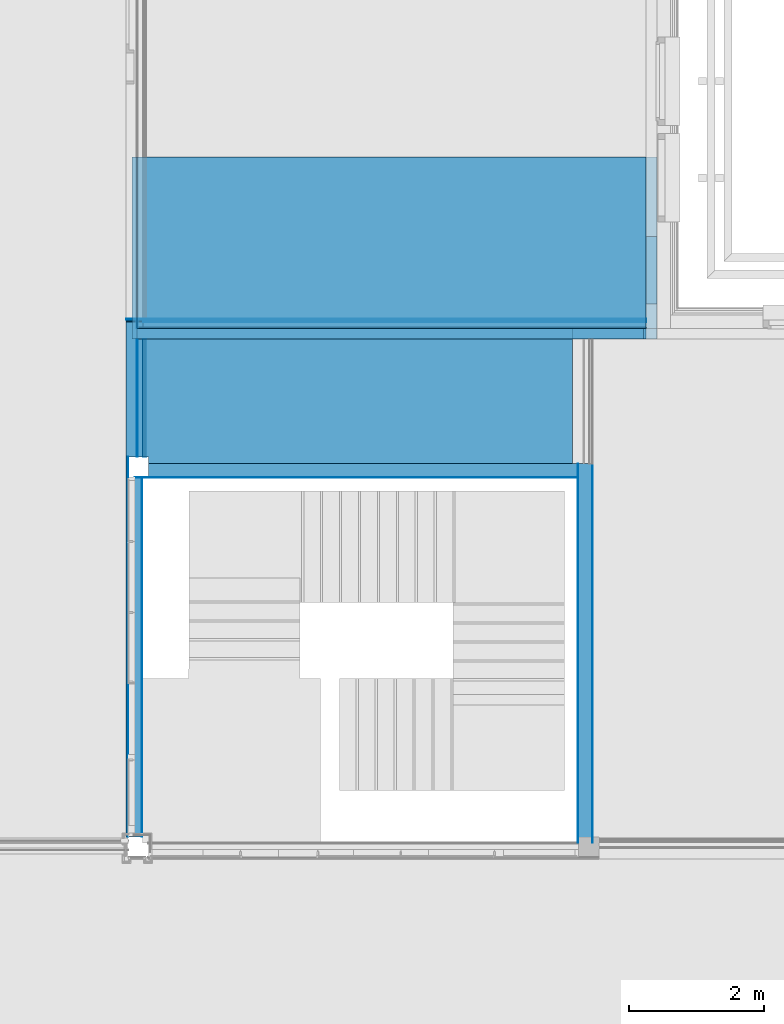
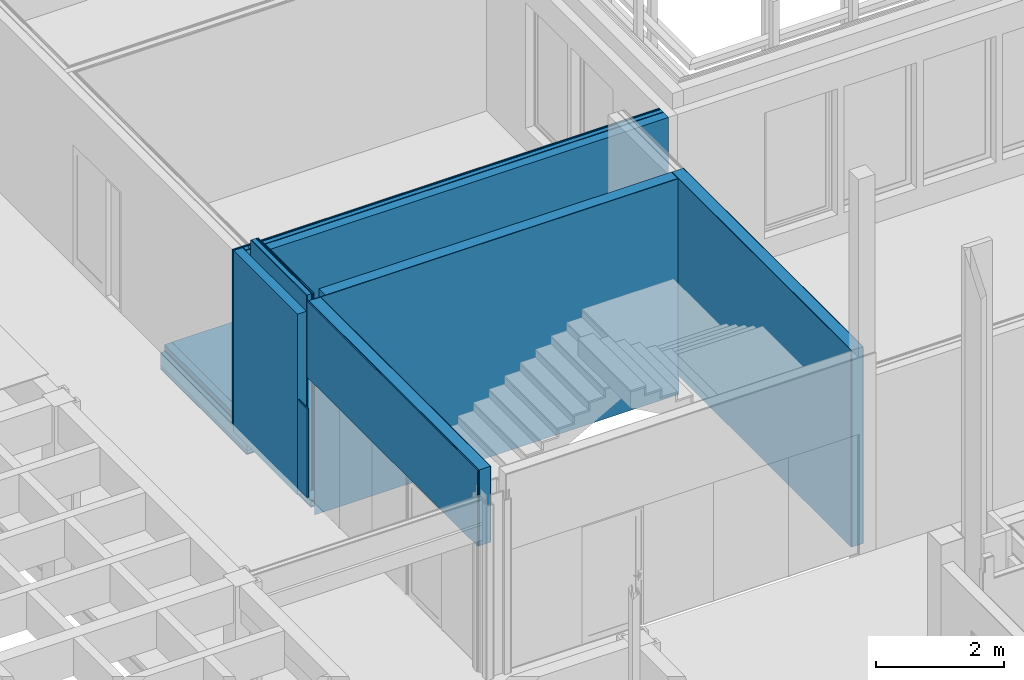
# One storey, part 96 of 139: 37 building element parts, 1 opening, 8 elements without a shape of their own.
"""IFC2X3 building model written with IfcOpenShell, lengths in millimetres."""

from ifc_helpers import new_model, entity, si_unit, converted_unit, derived_unit, money_unit, direction, frame, origin_with_axes, place, context, subcontext, project, spatial, faceted_brep, material, type_object, element, aggregate, save


model = new_model("IFC2X3")

# Units and contexts
model_context = context("Model", 3, precision=0.01, world=origin_with_axes(), true_north=direction((0.0, 1.0)))
body_context = subcontext(model_context, "Body", "Model", "MODEL_VIEW")
ifc_project = project(units=[si_unit("LENGTHUNIT", "METRE", prefix="MILLI"), si_unit("AREAUNIT", "SQUARE_METRE"), si_unit("VOLUMEUNIT", "CUBIC_METRE"), converted_unit("PLANEANGLEUNIT", "DEGREE", entity("IfcPlaneAngleMeasure", 0.0174532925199), si_unit("PLANEANGLEUNIT", "RADIAN"), dimensions=[0, 0, 0, 0, 0, 0, 0]), money_unit("EUR"), converted_unit("TIMEUNIT", "Year", entity("IfcTimeMeasure", 31556926.0), si_unit("TIMEUNIT", "SECOND"), dimensions=[0, 0, 1, 0, 0, 0, 0]), si_unit("MASSUNIT", "GRAM", prefix="KILO"), si_unit("THERMODYNAMICTEMPERATUREUNIT", "DEGREE_CELSIUS"), si_unit("LUMINOUSINTENSITYUNIT", "LUMEN"), si_unit("ENERGYUNIT", "JOULE", prefix="MEGA"), derived_unit("THERMALCONDUCTANCEUNIT", [(si_unit("POWERUNIT", "WATT"), 1), (si_unit("LENGTHUNIT", "METRE"), -1), (si_unit("THERMODYNAMICTEMPERATUREUNIT", "KELVIN"), -1)]), derived_unit("SPECIFICHEATCAPACITYUNIT", [(si_unit("ENERGYUNIT", "JOULE"), 1), (si_unit("MASSUNIT", "GRAM", prefix="KILO"), -1), (si_unit("THERMODYNAMICTEMPERATUREUNIT", "KELVIN"), -1)]), derived_unit("MASSDENSITYUNIT", [(si_unit("MASSUNIT", "GRAM", prefix="KILO"), 1), (si_unit("VOLUMEUNIT", "CUBIC_METRE"), -1)])], contexts=[model_context])

# Site, building, storey
site_placement = place(None, origin_with_axes())
site = spatial("IfcSite", under=ifc_project, at=site_placement, Name="Kolde pst 67a", CompositionType="ELEMENT")
building_placement = place(site_placement, origin_with_axes())
building = spatial("IfcBuilding", under=site, at=building_placement, Name="Riigigümnaasium", CompositionType="ELEMENT")
storey_placement = place(building_placement, frame((0.0, 0.0, 4600.0), z_axis=(0.0, 0.0, 1.0), x_axis=(1.0, 0.0, 0.0)))
storey = spatial("IfcBuildingStorey", under=building, at=storey_placement, Name="2. korrus", CompositionType="ELEMENT", Elevation=4600.0)

# Wall, building element parts
wall_type_1 = type_object("IfcWallType", Name="SS-CLT-16/1_vill75+krohv 52 dB 300", PredefinedType="NOTDEFINED")
wall_1_placement = place(storey_placement, frame((60279.9941222, 36279.9996998, -200.0), z_axis=(0.0, 0.0, 1.0), x_axis=(-1.0, 0.0, 0.0)))
wall_1 = element("IfcWall", 1, at=wall_1_placement, inside=storey, type_object=wall_type_1, Name="Sisesein")
ifc_material_1 = material(Name="_KANDETARIND - CLT ristkihtliimpuit vastavalt EK osale, CLT paigaldusvuugid teibitakse ROTHOBLAAS teibiga")
building_element_part_1_placement = place(wall_1_placement, origin_with_axes())
building_element_part_1 = element("IfcBuildingElementPart", 2, at=building_element_part_1_placement, material=ifc_material_1, Name="_KANDETARIND - CLT ristkihtliimpuit vastavalt EK osale, CLT paigaldusvuugid teibitakse ROTHOBLAAS teibiga", context=body_context, shape_type="Brep", body=[
    faceted_brep([(0.0, -160.0, 3520.0), (0.0, -160.0, 70.0), (1089.98089475, -160.0, 70.0), (7530.0, -160.0, 70.0), (7530.0, -160.0, 3520.0), (0.0, 0.0, 3520.0), (0.0, 0.0, 70.0), (1089.98089475, 0.0, 70.0), (7530.0, 0.0, 70.0), (7529.99998052, 0.0, 3520.0), (799.972930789, 0.0, 3520.0), (2135.04524547, 0.0, 3520.0)], [[[0, 1, 2, 3, 4]], [[0, 5, 6, 1]], [[3, 2, 1, 6, 7, 8]], [[9, 4, 3, 8]], [[10, 5, 0, 4, 9, 11]], [[5, 10, 11, 9, 8, 7, 6]]]),
])
ifc_material_2 = material(Name="_ÕHKVAHE")
building_element_part_2_placement = place(wall_1_placement, origin_with_axes())
building_element_part_2 = element("IfcBuildingElementPart", 3, at=building_element_part_2_placement, material=ifc_material_2, Name="_ÕHKVAHE", context=body_context, shape_type="Brep", body=[
    faceted_brep([(0.0, -175.0, 3520.0), (0.0, -175.0, 197.0), (7515.0, -175.0, 197.0), (7515.0, -175.0, 3520.0), (0.0, -160.0, 3520.0), (0.0, -160.0, 197.0), (7515.0, -160.0, 197.0), (7515.0, -160.0, 3520.0)], [[[0, 1, 2, 3]], [[0, 4, 5, 1]], [[2, 1, 5, 6]], [[7, 3, 2, 6]], [[4, 0, 3, 7]], [[4, 7, 6, 5]]]),
])
ifc_material_3 = material(Name="_KARKASS - metallkarkass CW 75/50/06 ja UW 75/40/06, samm 600, vahel mineraalvill, helineeldetegur αw = 1.0,  ISOVER ACOUSTIC 75mm või samaväärne")
building_element_part_3_placement = place(wall_1_placement, origin_with_axes())
building_element_part_3 = element("IfcBuildingElementPart", 4, at=building_element_part_3_placement, material=ifc_material_3, Name="_KARKASS - metallkarkass CW 75/50/06 ja UW 75/40/06, samm 600, vahel mineraalvill, helineeldetegur αw = 1.0,  ISOVER ACOUSTIC 75mm või samaväärne", context=body_context, shape_type="Brep", body=[
    faceted_brep([(0.0, -250.0, 3520.0), (0.0, -250.0, 197.0), (7440.0, -250.0, 197.0), (7440.0, -250.0, 3520.0), (0.0, -175.0, 3520.0), (0.0, -175.0, 197.0), (7440.0, -175.0, 197.0), (7440.0, -175.0, 3520.0)], [[[0, 1, 2, 3]], [[0, 4, 5, 1]], [[2, 1, 5, 6]], [[7, 3, 2, 6]], [[4, 0, 3, 7]], [[4, 7, 6, 5]]]),
])
ifc_material_4 = material(Name="_PLAATMATERJAL - OSB3 plaat")
building_element_part_4_placement = place(wall_1_placement, origin_with_axes())
building_element_part_4 = element("IfcBuildingElementPart", 5, at=building_element_part_4_placement, material=ifc_material_4, Name="_PLAATMATERJAL - OSB3 plaat", context=body_context, shape_type="Brep", body=[
    faceted_brep([(0.0, -260.0, 3520.0), (0.0, -260.0, 197.0), (7430.0, -260.0, 197.0), (7430.0, -260.0, 3520.0), (0.0, -250.0, 3520.0), (0.0, -250.0, 197.0), (7430.0, -250.0, 197.0), (7430.0, -250.0, 3520.0)], [[[0, 1, 2, 3]], [[0, 4, 5, 1]], [[2, 1, 5, 6]], [[7, 3, 2, 6]], [[4, 0, 3, 7]], [[4, 7, 6, 5]]]),
])
ifc_material_5 = material(Name="_PLAATMATERJAL - tuletõkkekipsplaat, Knauf Red GKF või samaväärne")
building_element_part_5_placement = place(wall_1_placement, origin_with_axes())
building_element_part_5 = element("IfcBuildingElementPart", 6, at=building_element_part_5_placement, material=ifc_material_5, Name="_PLAATMATERJAL - tuletõkkekipsplaat, Knauf Red GKF või samaväärne", context=body_context, shape_type="Brep", body=[
    faceted_brep([(0.0, -275.0, 3520.0), (0.0, -275.0, 197.0), (7690.0, -275.0, 197.0), (7690.0, -275.0, 3520.0), (0.0, -260.0, 3520.0), (0.0, -260.0, 197.0), (7690.0, -260.0, 197.0), (7690.0, -260.0, 3520.0)], [[[0, 1, 2, 3]], [[0, 4, 5, 1]], [[1, 5, 6, 2]], [[7, 3, 2, 6]], [[4, 0, 3, 7]], [[4, 7, 6, 5]]]),
])
building_element_part_6_placement = place(wall_1_placement, origin_with_axes())
building_element_part_6 = element("IfcBuildingElementPart", 7, at=building_element_part_6_placement, material=ifc_material_5, Name="_PLAATMATERJAL - tuletõkkekipsplaat, Knauf Red GKF või samaväärne", context=body_context, shape_type="Brep", body=[
    faceted_brep([(0.0, -290.0, 3520.0), (0.0, -290.0, 197.0), (7690.0, -290.0, 197.0), (7690.0, -290.0, 3520.0), (0.0, -275.0, 3520.0), (0.0, -275.0, 197.0), (7690.0, -275.0, 197.0), (7690.0, -275.0, 3520.0)], [[[0, 1, 2, 3]], [[0, 4, 5, 1]], [[1, 5, 6, 2]], [[7, 3, 2, 6]], [[4, 0, 3, 7]], [[4, 7, 6, 5]]]),
])
ifc_material_6 = material(Name="_VIIMISTLUSKIHT - viimistlus vastavalt SA osale")
building_element_part_7_placement = place(wall_1_placement, origin_with_axes())
building_element_part_7 = element("IfcBuildingElementPart", 8, at=building_element_part_7_placement, material=ifc_material_6, Name="_VIIMISTLUSKIHT - viimistlus vastavalt SA osale", context=body_context, shape_type="Brep", body=[
    faceted_brep([(0.0, -300.0, 3520.0), (0.0, -300.0, 200.0), (7690.0, -300.0, 200.0), (7690.0, -300.0, 3520.0), (0.0, -290.0, 3520.0), (0.0, -290.0, 200.0), (7690.0, -290.0, 200.0), (7690.0, -290.0, 3520.0)], [[[0, 1, 2, 3]], [[0, 4, 5, 1]], [[1, 5, 6, 2]], [[7, 3, 2, 6]], [[4, 0, 3, 7]], [[4, 7, 6, 5]]]),
])
aggregate(wall_1, [building_element_part_1, building_element_part_2, building_element_part_3, building_element_part_4, building_element_part_5, building_element_part_6, building_element_part_7])

wall_2_placement = place(storey_placement, frame((52589.9941222, 36539.9996998, -130.0), z_axis=(0.0, 0.0, 1.0), x_axis=(0.0, -1.0, 0.0)))
wall_2 = element("IfcWall", 9, at=wall_2_placement, inside=storey, type_object=wall_type_1, Name="Sisesein")
building_element_part_8_placement = place(wall_2_placement, origin_with_axes())
building_element_part_8 = element("IfcBuildingElementPart", 10, at=building_element_part_8_placement, material=ifc_material_6, Name="_VIIMISTLUSKIHT - viimistlus vastavalt SA osale", context=body_context, shape_type="Brep", body=[
    faceted_brep([(260.0, 300.0, 3470.0), (260.0, 300.0, 3750.0), (1999.99972686, 300.0, 3750.0), (1999.99972686, 300.0, 0.0), (260.0, 300.0, 0.0), (260.0, 290.0, 0.0), (260.0, 290.0, 3470.0), (260.0, 290.0, 3750.0), (1999.99972686, 290.0, 3750.0), (1999.99972686, 290.0, 0.0)], [[[0, 1, 2, 3, 4]], [[1, 0, 4, 5, 6, 7]], [[1, 7, 8, 2]], [[8, 9, 3, 2]], [[9, 5, 4, 3]], [[6, 5, 9, 8, 7]]]),
])
building_element_part_9_placement = place(wall_2_placement, origin_with_axes())
building_element_part_9 = element("IfcBuildingElementPart", 11, at=building_element_part_9_placement, material=ifc_material_5, Name="_PLAATMATERJAL - tuletõkkekipsplaat, Knauf Red GKF või samaväärne", context=body_context, shape_type="Brep", body=[
    faceted_brep([(260.0, 290.0, 3470.0), (260.0, 290.0, 3750.0), (1999.99972686, 290.0, 3750.0), (1999.99972686, 290.0, 0.0), (260.0, 290.0, 0.0), (260.0, 275.0, 0.0), (260.0, 275.0, 3470.0), (260.0, 275.0, 3750.0), (1999.99972686, 275.0, 3750.0), (1999.99972686, 275.0, 0.0)], [[[0, 1, 2, 3, 4]], [[1, 0, 4, 5, 6, 7]], [[1, 7, 8, 2]], [[8, 9, 3, 2]], [[9, 5, 4, 3]], [[6, 5, 9, 8, 7]]]),
])
building_element_part_10_placement = place(wall_2_placement, origin_with_axes())
building_element_part_10 = element("IfcBuildingElementPart", 12, at=building_element_part_10_placement, material=ifc_material_5, Name="_PLAATMATERJAL - tuletõkkekipsplaat, Knauf Red GKF või samaväärne", context=body_context, shape_type="Brep", body=[
    faceted_brep([(260.0, 275.0, 3470.0), (260.0, 275.0, 3750.0), (1999.99972686, 275.0, 3750.0), (1999.99972686, 275.0, 0.0), (260.0, 275.0, 0.0), (260.0, 260.0, 0.0), (260.0, 260.0, 3470.0), (260.0, 260.0, 3750.0), (1999.99972686, 260.0, 3750.0), (1999.99972686, 260.0, 0.0)], [[[0, 1, 2, 3, 4]], [[1, 0, 4, 5, 6, 7]], [[1, 7, 8, 2]], [[8, 9, 3, 2]], [[9, 5, 4, 3]], [[6, 5, 9, 8, 7]]]),
])
building_element_part_11_placement = place(wall_2_placement, origin_with_axes())
building_element_part_11 = element("IfcBuildingElementPart", 13, at=building_element_part_11_placement, material=ifc_material_4, Name="_PLAATMATERJAL - OSB3 plaat", context=body_context, shape_type="Brep", body=[
    faceted_brep([(260.0, 260.0, 3470.0), (260.0, 260.0, 3750.0), (1999.99972686, 260.0, 3750.0), (1999.99972686, 260.0, 0.0), (260.0, 260.0, 0.0), (260.0, 250.0, 0.0), (260.0, 250.0, 3470.0), (260.0, 250.0, 3750.0), (1999.99972686, 250.0, 3750.0), (1999.99972686, 250.0, 0.0)], [[[0, 1, 2, 3, 4]], [[1, 0, 4, 5, 6, 7]], [[1, 7, 8, 2]], [[8, 9, 3, 2]], [[9, 5, 4, 3]], [[6, 5, 9, 8, 7]]]),
    faceted_brep([(0.0, 250.0, 3450.0), (0.0, 260.0, 3450.0), (0.0, 260.0, 127.0), (0.0, 250.0, 127.0), (10.0, 260.0, 3450.0), (10.0, 250.0, 3450.0), (10.0, 260.0, 127.0), (10.0, 250.0, 127.0)], [[[0, 1, 2, 3]], [[4, 1, 0, 5]], [[1, 4, 6, 2]], [[3, 2, 6, 7]], [[5, 0, 3, 7]], [[4, 5, 7, 6]]]),
])
building_element_part_12_placement = place(wall_2_placement, origin_with_axes())
building_element_part_12 = element("IfcBuildingElementPart", 14, at=building_element_part_12_placement, material=ifc_material_3, Name="_KARKASS - metallkarkass CW 75/50/06 ja UW 75/40/06, samm 600, vahel mineraalvill, helineeldetegur αw = 1.0,  ISOVER ACOUSTIC 75mm või samaväärne", context=body_context, shape_type="Brep", body=[
    faceted_brep([(260.0, 250.0, 3470.0), (260.0, 250.0, 3750.0), (1999.99972686, 250.0, 3750.0), (1999.99972686, 250.0, 0.0), (260.0, 250.0, 0.0), (260.0, 175.0, 0.0), (260.0, 175.0, 3470.0), (260.0, 175.0, 3750.0), (1999.99972686, 175.0, 3750.0), (1999.99972686, 175.0, 0.0)], [[[0, 1, 2, 3, 4]], [[1, 0, 4, 5, 6, 7]], [[1, 7, 8, 2]], [[8, 9, 3, 2]], [[9, 5, 4, 3]], [[6, 5, 9, 8, 7]]]),
    faceted_brep([(0.0, 175.0, 3450.0), (0.0, 250.0, 3450.0), (0.0, 250.0, 127.0), (0.0, 175.0, 127.0), (85.0, 250.0, 3450.0), (85.0, 175.0, 3450.0), (85.0, 250.0, 127.0), (85.0, 175.0, 127.0)], [[[0, 1, 2, 3]], [[4, 1, 0, 5]], [[1, 4, 6, 2]], [[3, 2, 6, 7]], [[5, 0, 3, 7]], [[4, 5, 7, 6]]]),
])
building_element_part_13_placement = place(wall_2_placement, origin_with_axes())
building_element_part_13 = element("IfcBuildingElementPart", 15, at=building_element_part_13_placement, material=ifc_material_2, Name="_ÕHKVAHE", context=body_context, shape_type="Brep", body=[
    faceted_brep([(260.0, 175.0, 3470.0), (260.0, 175.0, 3750.0), (1999.99972686, 175.0, 3750.0), (1999.99972686, 175.0, 0.0), (260.0, 175.0, 0.0), (260.0, 160.0, 0.0), (260.0, 160.000019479, 3470.0), (260.0, 160.000019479, 3750.0), (1999.99972686, 160.0, 3750.0), (1999.99972686, 160.0, 0.0)], [[[0, 1, 2, 3, 4]], [[1, 0, 4, 5, 6, 7]], [[1, 7, 8, 2]], [[8, 9, 3, 2]], [[9, 5, 4, 3]], [[6, 5, 9, 8, 7]]]),
    faceted_brep([(0.0, 160.0, 3450.0), (0.0, 175.0, 3450.0), (0.0, 175.0, 127.0), (0.0, 160.0, 127.0), (100.0, 175.0, 3450.0), (100.0, 160.0, 3450.0), (100.0, 175.0, 127.0), (100.0, 160.0, 127.0)], [[[0, 1, 2, 3]], [[4, 1, 0, 5]], [[1, 4, 6, 2]], [[3, 2, 6, 7]], [[5, 0, 3, 7]], [[4, 5, 7, 6]]]),
])
building_element_part_14_placement = place(wall_2_placement, origin_with_axes())
building_element_part_14 = element("IfcBuildingElementPart", 16, at=building_element_part_14_placement, material=ifc_material_1, Name="_KANDETARIND - CLT ristkihtliimpuit vastavalt EK osale, CLT paigaldusvuugid teibitakse ROTHOBLAAS teibiga", context=body_context, shape_type="Brep", body=[
    faceted_brep([(0.0, 0.0, 3450.0), (0.0, 160.0, 3450.0), (0.0, 160.0, 0.0), (0.0, 0.0, 0.0), (260.0, 160.000019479, 3450.0), (1999.99972686, 0.0, 3450.0), (1999.99972686, 160.000019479, 3450.0), (1999.99972686, 160.0, 0.0), (1999.99972686, 0.0, 0.0)], [[[0, 1, 2, 3]], [[4, 1, 0, 5, 6]], [[4, 6, 7, 2, 1]], [[2, 7, 8, 3]], [[5, 0, 3, 8]], [[6, 5, 8, 7]]]),
])
aggregate(wall_2, [building_element_part_8, building_element_part_9, building_element_part_10, building_element_part_11, building_element_part_12, building_element_part_13, building_element_part_14])

wall_type_2 = type_object("IfcWallType", Name="SS-RB-20/6_+1 krohv 210", PredefinedType="NOTDEFINED")
wall_3_placement = place(storey_placement, frame((59280.0132275, 34439.9999729, -365.0), z_axis=(0.0, 0.0, 1.0), x_axis=(-1.0, 0.0, 0.0)))
wall_3 = element("IfcWall", 17, at=wall_3_placement, inside=storey, type_object=wall_type_2, Name="Sisesein")
building_element_part_15_placement = place(wall_3_placement, origin_with_axes())
building_element_part_15 = element("IfcBuildingElementPart", 18, at=building_element_part_15_placement, material=ifc_material_6, Name="_VIIMISTLUSKIHT - viimistlus vastavalt SA osale", context=body_context, shape_type="Brep", body=[
    faceted_brep([(0.0, 200.0, 4115.0), (6560.01910525, 200.0, 4115.0), (6560.01910525, 210.0, 4115.0), (0.0, 210.0, 4115.0), (0.0, 200.0, 0.0), (6560.01910525, 200.0, 0.0), (6560.01910525, 210.0, 0.0), (0.0, 210.0, 0.0)], [[[0, 1, 2, 3]], [[4, 5, 1, 0]], [[2, 1, 5, 6]], [[3, 2, 6, 7]], [[4, 0, 3, 7]], [[7, 6, 5, 4]]]),
])
ifc_material_7 = material(Name="_KANDETARIND - monteeritav raudbetoon vastavalt EK osale")
building_element_part_16_placement = place(wall_3_placement, origin_with_axes())
building_element_part_16 = element("IfcBuildingElementPart", 19, at=building_element_part_16_placement, material=ifc_material_7, Name="_KANDETARIND - monteeritav raudbetoon vastavalt EK osale", context=body_context, shape_type="Brep", body=[
    faceted_brep([(6360.01910525, 0.0, 0.0), (6360.01910525, 0.0, 4115.0), (0.0, 0.0, 4115.0), (0.0, 0.0, 0.0), (6360.01910525, 200.0, 4115.0), (6360.01910525, 200.0, 0.0), (0.0, 200.0, 4115.0), (0.0, 200.0, 0.0)], [[[0, 1, 2, 3]], [[4, 1, 0, 5]], [[1, 4, 6, 2]], [[3, 2, 6, 7]], [[5, 0, 3, 7]], [[4, 5, 7, 6]]]),
])
aggregate(wall_3, [building_element_part_15, building_element_part_16])

# Wall, opening, building element parts
wall_type_3 = type_object("IfcWallType", Name="SS-RB-20/3_+krohv+dold 240", PredefinedType="NOTDEFINED")
wall_4_placement = place(storey_placement, frame((52619.9941222, 34239.9999729, 0.0), z_axis=(0.0, 0.0, 1.0), x_axis=(0.0, -1.0, 0.0)))
wall_4 = element("IfcWall", 20, at=wall_4_placement, inside=storey, type_object=wall_type_3, Name="Sisesein")
opening_placement = place(wall_4_placement, frame((2660.00015843, 0.0, 0.0), z_axis=(0.0, 0.0, 1.0), x_axis=(1.0, 0.0, 0.0)))
element("IfcOpeningElement", 21, at=opening_placement, cuts=wall_4, Name="Siseaken", context=body_context, shape_type="Brep", body=[
    faceted_brep([(2660.00015843, 240.0, 0.0), (2660.00015843, 240.0, 2300.0), (2660.00015843, -480.0, 2300.0), (2660.00015843, -480.0, 0.0), (-2660.00015843, 240.0, 0.0), (-2660.00015843, 240.0, 2300.0), (-2660.00015843, -480.0, 2300.0), (-2660.00015843, -480.0, 0.0)], [[[0, 1, 2, 3]], [[0, 4, 5, 1]], [[1, 5, 6, 2]], [[3, 2, 6, 7]], [[4, 0, 3, 7]], [[5, 4, 7, 6]]]),
])
building_element_part_17_placement = place(wall_4_placement, origin_with_axes())
building_element_part_17 = element("IfcBuildingElementPart", 22, at=building_element_part_17_placement, material=ifc_material_6, Name="_VIIMISTLUSKIHT - viimistlus vastavalt SA osale", context=body_context, shape_type="Brep", body=[
    faceted_brep([(10.0, 210.0, 2300.0), (10.0, 210.0, 3750.0), (5320.00031686, 210.0, 3750.0), (5320.00031686, 210.0, 2300.0), (10.0, 200.0, 3750.0), (10.0, 200.0, 2300.0), (5320.00031686, 200.0, 3750.0), (5320.00031686, 200.0, 2300.0)], [[[0, 1, 2, 3]], [[4, 1, 0, 5]], [[1, 4, 6, 2]], [[6, 7, 3, 2]], [[5, 0, 3, 7]], [[4, 5, 7, 6]]]),
])
building_element_part_18_placement = place(wall_4_placement, origin_with_axes())
building_element_part_18 = element("IfcBuildingElementPart", 23, at=building_element_part_18_placement, material=ifc_material_7, Name="_KANDETARIND - monteeritav raudbetoon vastavalt EK osale", context=body_context, shape_type="Brep", body=[
    faceted_brep([(10.0, 200.0, 2300.0), (10.0, 200.0, 3750.0), (5320.00031686, 200.0, 3750.0), (5320.00031686, 200.0, 2300.0), (10.0, 100.0, 3750.0), (10.0, 100.0, 2300.0), (0.0, 100.0, 3750.0), (0.0, 0.0, 3750.0), (5320.00031686, 0.0, 3750.0), (5320.00031686, 0.0, 2300.0), (0.0, 0.0, 2300.0), (0.0, 100.0, 2300.0)], [[[0, 1, 2, 3]], [[4, 1, 0, 5]], [[4, 6, 7, 8, 2, 1]], [[8, 9, 3, 2]], [[5, 0, 3, 9, 10, 11]], [[11, 6, 4, 5]], [[6, 11, 10, 7]], [[7, 10, 9, 8]]]),
])
ifc_material_8 = material(Name="_KARKASS - eriprofiilkinnitus vastavalt sisemisele plaatviimistlusele")
building_element_part_19_placement = place(wall_4_placement, origin_with_axes())
building_element_part_19 = element("IfcBuildingElementPart", 24, at=building_element_part_19_placement, material=ifc_material_8, Name="_KARKASS - eriprofiilkinnitus vastavalt sisemisele plaatviimistlusele", context=body_context, shape_type="Brep", body=[
    faceted_brep([(5320.00031686, 0.0, 2300.0), (0.0, 0.0, 2300.0), (0.0, 0.0, 3750.0), (5320.00031686, 0.0, 3750.0), (0.0, -10.0, 2300.0), (5320.00031686, -10.0, 2300.0), (0.0, -10.0, 3750.0), (5320.00031686, -10.0, 3750.0)], [[[0, 1, 2, 3]], [[4, 1, 0, 5]], [[1, 4, 6, 2]], [[3, 2, 6, 7]], [[5, 0, 3, 7]], [[4, 5, 7, 6]]]),
])
building_element_part_20_placement = place(wall_4_placement, origin_with_axes())
building_element_part_20 = element("IfcBuildingElementPart", 25, at=building_element_part_20_placement, material=ifc_material_6, Name="_VIIMISTLUSKIHT - viimistlus vastavalt SA osale", context=body_context, shape_type="Brep", body=[
    faceted_brep([(5320.00031686, -10.0, 2300.0), (0.0, -10.0, 2300.0), (0.0, -10.0, 3750.0), (5320.00031686, -10.0, 3750.0), (0.0, -30.0, 2300.0), (5320.00031686, -30.0, 2300.0), (0.0, -30.0, 3750.0), (5320.00031686, -30.0, 3750.0)], [[[0, 1, 2, 3]], [[4, 1, 0, 5]], [[1, 4, 6, 2]], [[3, 2, 6, 7]], [[5, 0, 3, 7]], [[4, 5, 7, 6]]]),
])
aggregate(wall_4, [building_element_part_17, building_element_part_18, building_element_part_19, building_element_part_20])

# Slab, building element parts
slab_type_1 = type_object("IfcSlabType", Name="VL-RB-22/2\u001f_köögi ventruumi lagi 55 dB 450", PredefinedType="NOTDEFINED")
slab_1_placement = place(storey_placement, frame((60439.9941222, 38971.8677612, 0.0), z_axis=(0.0, 0.0, 1.0), x_axis=(1.0, 0.0, 0.0)))
slab_1 = element("IfcSlab", 26, at=slab_1_placement, inside=storey, type_object=slab_type_1, Name="VAHELAGI", PredefinedType="NOTDEFINED")
building_element_part_21_placement = place(slab_1_placement, origin_with_axes())
building_element_part_21 = element("IfcBuildingElementPart", 27, at=building_element_part_21_placement, material=ifc_material_6, Name="_VIIMISTLUSKIHT - viimistlus vastavalt SA osale", context=body_context, shape_type="Brep", body=[
    faceted_brep([(-160.0, 0.0, -3.0), (-7560.0, 0.0, -3.0), (-7560.0, 0.0, 0.0), (-160.0, 0.0, 0.0), (-160.0, -2401.86806142, -3.0), (-7560.0, -2401.86806142, -3.0), (-7560.0, -2401.86806142, 0.0), (-160.0, -2401.86806142, 0.0)], [[[0, 1, 2, 3]], [[4, 5, 1, 0]], [[5, 6, 2, 1]], [[3, 2, 6, 7]], [[4, 0, 3, 7]], [[7, 6, 5, 4]]]),
])
ifc_material_9 = material(Name="_PEALEVALUKIHT - raudbetoonplaat vastavalt EK osale, vajadusel põrandküte")
building_element_part_22_placement = place(slab_1_placement, origin_with_axes())
building_element_part_22 = element("IfcBuildingElementPart", 28, at=building_element_part_22_placement, material=ifc_material_9, Name="_PEALEVALUKIHT - raudbetoonplaat vastavalt EK osale, vajadusel põrandküte", context=body_context, shape_type="Brep", body=[
    faceted_brep([(-7690.0, 0.0, -3.0), (-7690.0, 0.0, -100.0), (-7690.0, -2531.86806142, -100.0), (-7690.0, -2531.86806142, -3.0), (-160.0, 0.0, -100.0), (-160.0, 0.0, -3.0), (-160.0, -2531.86806142, -100.0), (-160.0, -2531.86806142, -3.0)], [[[0, 1, 2, 3]], [[4, 1, 0, 5]], [[6, 2, 1, 4]], [[7, 3, 2, 6]], [[0, 3, 7, 5]], [[6, 4, 5, 7]]]),
])
ifc_material_10 = material(Name="_ISOLATSIOON - löögimüraisolatsioon, mineraalvill, koormustaluvus min 20 kPa, dünaamiline jäikus 16 MN/m³, ISOVER FLO või samaväärne")
building_element_part_23_placement = place(slab_1_placement, origin_with_axes())
building_element_part_23 = element("IfcBuildingElementPart", 29, at=building_element_part_23_placement, material=ifc_material_10, Name="_ISOLATSIOON - löögimüraisolatsioon, mineraalvill, koormustaluvus min 20 kPa, dünaamiline jäikus 16 MN/m³, ISOVER FLO või samaväärne", context=body_context, shape_type="Brep", body=[
    faceted_brep([(-7690.0, 0.0, -100.0), (-7690.0, 0.0, -130.0), (-7690.0, -2531.86806142, -130.0), (-7690.0, -2531.86806142, -100.0), (-160.0, 0.0, -130.0), (-160.0, 0.0, -100.0), (-160.0, -2531.86806142, -130.0), (-160.0, -2531.86806142, -100.0)], [[[0, 1, 2, 3]], [[4, 1, 0, 5]], [[6, 2, 1, 4]], [[7, 3, 2, 6]], [[0, 3, 7, 5]], [[6, 4, 5, 7]]]),
])
ifc_material_11 = material(Name="_SOOJUSTUS - vahtpolüstüreenplaadid EPS 80, survetugevus min 80kPa, soojuserijuhtivus λD<0,038 W/(mK)")
building_element_part_24_placement = place(slab_1_placement, origin_with_axes())
building_element_part_24 = element("IfcBuildingElementPart", 30, at=building_element_part_24_placement, material=ifc_material_11, Name="_SOOJUSTUS - vahtpolüstüreenplaadid EPS 80, survetugevus min 80kPa, soojuserijuhtivus λD<0,038 W/(mK)", context=body_context, shape_type="Brep", body=[
    faceted_brep([(-1249.98089475, -2691.86806142, -130.0), (-1249.98089475, -2531.86806142, -130.0), (0.0, -2531.86806142, -130.0), (0.0, 0.0, -130.0), (-7760.0, 0.0, -130.0), (-7760.0, -2691.86806142, -130.0), (-1249.98089475, -2691.86806142, -150.0), (-1249.98089475, -2531.86806142, -150.0), (0.0, -2531.86806142, -150.0), (0.0, 0.0, -150.0), (-7760.0, 0.0, -150.0), (-7760.0, -2691.86806142, -150.0)], [[[0, 1, 2, 3, 4, 5]], [[1, 0, 6, 7]], [[8, 2, 1, 7]], [[2, 8, 9, 3]], [[9, 10, 4, 3]], [[10, 11, 5, 4]], [[6, 0, 5, 11]], [[7, 6, 11, 10, 9, 8]]]),
])
building_element_part_25_placement = place(slab_1_placement, origin_with_axes())
building_element_part_25 = element("IfcBuildingElementPart", 31, at=building_element_part_25_placement, material=ifc_material_7, Name="_KANDETARIND - monteeritav raudbetoon vastavalt EK osale", context=body_context, shape_type="Brep", body=[
    faceted_brep([(-1249.98089475, -2691.86806142, -150.0), (-1249.98089475, -2531.86806142, -150.0), (-200.0, -2531.86806142, -150.0), (-200.0, -2691.86806142, -150.0), (0.0, -2691.86806142, -150.0), (0.0, 0.0, -150.0), (-7760.0, 0.0, -150.0), (-7760.0, -2691.86806142, -150.0), (-1249.9808955, -2691.86806142, -370.0), (-1249.98089475, -2531.86806142, -370.0), (-200.0, -2531.86806142, -370.0), (-200.0, -2691.86806142, -370.0), (0.0, -2691.86806142, -370.0), (0.0, 0.0, -370.0), (-7760.0, 0.0, -370.0), (-7760.0, -2691.86806142, -370.0)], [[[0, 1, 2, 3, 4, 5, 6, 7]], [[1, 0, 8, 9]], [[2, 1, 9, 10]], [[3, 2, 10, 11]], [[3, 11, 12, 4]], [[4, 12, 13, 5]], [[5, 13, 14, 6]], [[6, 14, 15, 7]], [[8, 0, 7, 15]], [[9, 8, 15, 14, 13, 12, 11, 10]]]),
])
ifc_material_12 = material(Name="_KARKASS - metallkarkass CW 50/50/06 ja UW 50/40/06, samm 600, vahel mineraalvill, helineeldetegur αw = 0.85, ISOVER ACOUSTIC 50mm või samaväärne")
building_element_part_26_placement = place(slab_1_placement, origin_with_axes())
building_element_part_26 = element("IfcBuildingElementPart", 32, at=building_element_part_26_placement, material=ifc_material_12, Name="_KARKASS - metallkarkass CW 50/50/06 ja UW 50/40/06, samm 600, vahel mineraalvill, helineeldetegur αw = 0.85, ISOVER ACOUSTIC 50mm või samaväärne", context=body_context, shape_type="Brep", body=[
    faceted_brep([(-1249.9808955, -2691.86806142, -370.0), (-1249.98089475, -2531.86806142, -370.0), (-200.0, -2531.86806142, -370.0), (-200.0, -2171.88692729, -370.0), (0.0, -2171.88692729, -370.0), (0.0, -1171.88692729, -370.0), (-200.0, -1171.88692729, -370.0), (-200.0, 0.0, -369.999996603), (-3097.48560837, 0.0, -370.0), (-3097.48560837, -15.0000443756, -370.0), (-3197.48560837, -15.0000443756, -370.0), (-3197.48560837, 0.0, -370.0), (-5017.48560837, 0.0, -370.0), (-5017.48560837, -15.0000443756, -370.0), (-5117.48560837, -15.0000443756, -370.0), (-5117.48560837, 0.0, -370.0), (-7760.0, 0.0, -370.0), (-7760.0, -2691.86806142, -370.0), (-1249.9808955, -2691.86806142, -420.0), (-1249.98089475, -2531.86806142, -420.0), (-200.0, -2531.86806142, -420.0), (-200.0, -2171.88692729, -420.0), (0.0, -2171.88692729, -420.0), (0.0, -1171.88692729, -420.0), (-200.0, -1171.88692729, -420.0), (-200.0, 0.0, -420.0), (-3097.48560837, 0.0, -420.0), (-3097.48560837, -15.0000443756, -420.0), (-3197.48560837, -15.0000443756, -420.0), (-3197.48560837, 0.0, -420.0), (-5017.48560837, 0.0, -420.0), (-5017.48560837, -15.0000443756, -420.0), (-5117.48560837, -15.0000443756, -420.0), (-5117.48560837, 0.0, -420.0), (-7760.0, 0.0, -420.0), (-7760.0, -2691.86806142, -420.0)], [[[0, 1, 2, 3, 4, 5, 6, 7, 8, 9, 10, 11, 12, 13, 14, 15, 16, 17]], [[1, 0, 18, 19]], [[20, 2, 1, 19]], [[2, 20, 21, 3]], [[21, 22, 4, 3]], [[22, 23, 5, 4]], [[24, 6, 5, 23]], [[24, 25, 7, 6]], [[25, 26, 8, 7]], [[27, 9, 8, 26]], [[28, 10, 9, 27]], [[28, 29, 11, 10]], [[29, 30, 12, 11]], [[31, 13, 12, 30]], [[32, 14, 13, 31]], [[32, 33, 15, 14]], [[16, 15, 33, 34]], [[16, 34, 35, 17]], [[18, 0, 17, 35]], [[19, 18, 35, 34, 33, 32, 31, 30, 29, 28, 27, 26, 25, 24, 23, 22, 21, 20]]]),
])
building_element_part_27_placement = place(slab_1_placement, origin_with_axes())
building_element_part_27 = element("IfcBuildingElementPart", 33, at=building_element_part_27_placement, material=ifc_material_5, Name="_PLAATMATERJAL - tuletõkkekipsplaat, Knauf Red GKF või samaväärne", context=body_context, shape_type="Brep", body=[
    faceted_brep([(-1249.9808955, -2691.86806142, -420.0), (-1249.98089475, -2531.86806142, -420.0), (-200.0, -2531.86806142, -420.0), (-200.0, -2171.88692729, -420.0), (0.0, -2171.88692729, -420.0), (0.0, -1171.88692729, -420.0), (-200.0, -1171.88692729, -420.0), (-200.0, 0.0, -420.0), (-3097.48560837, 0.0, -420.0), (-3097.48560837, -15.0000443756, -420.0), (-3197.48560837, -15.0000443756, -420.0), (-3197.48560837, 0.0, -420.0), (-5017.48560837, 0.0, -420.0), (-5017.48560837, -15.0000443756, -420.0), (-5117.48560837, -15.0000443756, -420.0), (-5117.48560837, 0.0, -420.0), (-7760.0, 0.0, -420.0), (-7760.0, -2691.86806142, -420.0), (-1249.98089475, -2691.86806142, -430.0), (-1249.98089475, -2531.86806142, -430.0), (-200.0, -2531.86806142, -430.0), (-200.0, -2691.86806142, -430.0), (-200.0, -2691.86806142, -435.0), (-200.0, -2171.88692729, -435.0), (0.0, -2171.88692729, -435.0), (0.0, -1171.88692729, -435.0), (-200.0, -1171.88692729, -435.0), (-200.0, 0.0, -435.0), (-3097.48560837, 0.0, -435.0), (-3097.48560837, -15.0000443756, -435.0), (-3197.48560837, -15.0000443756, -435.0), (-3197.48560837, 0.0, -435.0), (-5017.48560837, 0.0, -435.0), (-5017.48560837, -15.0000443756, -435.0), (-5117.48560837, -15.0000443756, -435.0), (-5117.48560837, 0.0, -435.0), (-7760.0, 0.0, -435.0), (-7760.0, -2691.86806142, -435.0)], [[[0, 1, 2, 3, 4, 5, 6, 7, 8, 9, 10, 11, 12, 13, 14, 15, 16, 17]], [[1, 0, 18, 19]], [[20, 2, 1, 19]], [[20, 21, 22, 23, 3, 2]], [[23, 24, 4, 3]], [[24, 25, 5, 4]], [[26, 6, 5, 25]], [[26, 27, 7, 6]], [[27, 28, 8, 7]], [[29, 9, 8, 28]], [[30, 10, 9, 29]], [[30, 31, 11, 10]], [[31, 32, 12, 11]], [[33, 13, 12, 32]], [[34, 14, 13, 33]], [[34, 35, 15, 14]], [[16, 15, 35, 36]], [[16, 36, 37, 17]], [[18, 0, 17, 37, 22, 21]], [[21, 20, 19, 18]], [[34, 33, 32, 31, 30, 29, 28, 27, 26, 25, 24, 23, 22, 37, 36, 35]]]),
])
building_element_part_28_placement = place(slab_1_placement, origin_with_axes())
building_element_part_28 = element("IfcBuildingElementPart", 34, at=building_element_part_28_placement, material=ifc_material_5, Name="_PLAATMATERJAL - tuletõkkekipsplaat, Knauf Red GKF või samaväärne", context=body_context, shape_type="Brep", body=[
    faceted_brep([(-5017.48560837, 0.0, -450.0), (-5017.48560837, 0.0, -435.0), (-3197.48560837, 0.0, -435.0), (-3197.48560837, 0.0, -450.0), (-5017.48560837, -15.0000443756, -435.0), (-5017.48560837, -15.0000443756, -450.0), (-5117.48560837, -15.0000443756, -435.0), (-5117.48560837, 0.0, -435.0), (-7760.0, 0.0, -435.0), (-7760.0, -2691.86806142, -435.0), (-200.0, -2691.86806142, -435.0), (-200.0, -2171.88692729, -435.0), (0.0, -2171.88692729, -435.0), (0.0, -1171.88692729, -435.0), (-200.0, -1171.88692729, -435.0), (-200.0, 0.0, -435.0), (-3097.48560837, 0.0, -435.0), (-3097.48560837, -15.0000443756, -435.0), (-3197.48560837, -15.0000443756, -435.0), (-3197.48560837, -15.0000443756, -450.0), (-3097.48560837, -15.0000443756, -450.0), (-3097.48560837, 0.0, -450.0), (-200.0, 0.0, -450.0), (-200.0, -1171.88692729, -450.0), (0.0, -1171.88692729, -450.0), (0.0, -2171.88692729, -450.0), (-200.0, -2171.88692729, -450.0), (-200.0, -2691.86806142, -450.0), (-7760.0, -2691.86806142, -450.0), (-7760.0, 0.0, -450.0), (-5117.48560837, 0.0, -450.0), (-5117.48560837, -15.0000443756, -450.0)], [[[0, 1, 2, 3]], [[4, 1, 0, 5]], [[6, 7, 8, 9, 10, 11, 12, 13, 14, 15, 16, 17, 18, 2, 1, 4]], [[3, 2, 18, 19]], [[5, 0, 3, 19, 20, 21, 22, 23, 24, 25, 26, 27, 28, 29, 30, 31]], [[6, 4, 5, 31]], [[30, 7, 6, 31]], [[7, 30, 29, 8]], [[8, 29, 28, 9]], [[27, 10, 9, 28]], [[11, 10, 27, 26]], [[25, 12, 11, 26]], [[24, 13, 12, 25]], [[14, 13, 24, 23]], [[22, 15, 14, 23]], [[21, 16, 15, 22]], [[17, 16, 21, 20]], [[18, 17, 20, 19]]]),
])
aggregate(slab_1, [building_element_part_21, building_element_part_22, building_element_part_23, building_element_part_24, building_element_part_25, building_element_part_26, building_element_part_27, building_element_part_28])

slab_type_2 = type_object("IfcSlabType", Name="VL-MK-10/1_ köögi tehno šahti lagi 35 dB 130", PredefinedType="NOTDEFINED")
slab_2_placement = place(storey_placement, frame((59190.0132275, 34439.9999868, -450.0), z_axis=(0.0, 0.0, 1.0), x_axis=(1.0, 0.0, 0.0)))
slab_2 = element("IfcSlab", 35, at=slab_2_placement, inside=storey, type_object=slab_type_2, Name="VAHELAGI", PredefinedType="NOTDEFINED")
building_element_part_29_placement = place(slab_2_placement, origin_with_axes())
building_element_part_29 = element("IfcBuildingElementPart", 36, at=building_element_part_29_placement, material=ifc_material_5, Name="_PLAATMATERJAL - tuletõkkekipsplaat, Knauf Red GKF või samaväärne", context=body_context, shape_type="Brep", body=[
    faceted_brep([(0.0, 1839.99972686, 115.0), (0.0, 1839.99972686, 130.0), (0.0, 0.0, 130.0), (0.0, 0.0, 115.0), (-6360.01910525, 1839.99972686, 115.0), (-6360.01910525, 1839.99972686, 130.0), (-6360.01910525, 100.0, 130.0), (-6270.01910525, 100.0, 130.0), (-6270.01910525, 0.0, 130.0), (-6270.01910525, 0.0, 115.0), (-6270.01910525, 100.0, 115.0), (-6360.01910525, 100.0, 115.0)], [[[0, 1, 2, 3]], [[4, 5, 1, 0]], [[2, 1, 5, 6, 7, 8]], [[3, 2, 8, 9]], [[3, 9, 10, 11, 4, 0]], [[11, 6, 5, 4]], [[10, 7, 6, 11]], [[9, 8, 7, 10]]]),
])
ifc_material_13 = material(Name="_KARKASS - metallkarkass CW 100/50/06 ja UW 100/40/06, samm 600, vahel mineraalvill, helineeldetegur αw = 1.0,  ISOVER ACOUSTIC 100mm või samaväärne")
building_element_part_30_placement = place(slab_2_placement, origin_with_axes())
building_element_part_30 = element("IfcBuildingElementPart", 37, at=building_element_part_30_placement, material=ifc_material_13, Name="_KARKASS - metallkarkass CW 100/50/06 ja UW 100/40/06, samm 600, vahel mineraalvill, helineeldetegur αw = 1.0,  ISOVER ACOUSTIC 100mm või samaväärne", context=body_context, shape_type="Brep", body=[
    faceted_brep([(0.0, 1839.99972686, 30.0), (0.0, 1839.99972686, 115.0), (0.0, 0.0, 115.0), (0.0, 0.0, 30.0), (-6360.01910525, 1839.99972686, 30.0), (-6360.01910525, 1839.99972686, 115.0), (-6360.01910525, 100.0, 115.0), (-6270.01910525, 100.0, 115.0), (-6270.01910525, 0.0, 115.0), (-6270.01910525, 0.0, 30.0), (-6270.01910525, 100.0, 30.0), (-6360.01910525, 100.0, 30.0)], [[[0, 1, 2, 3]], [[4, 5, 1, 0]], [[2, 1, 5, 6, 7, 8]], [[3, 2, 8, 9]], [[3, 9, 10, 11, 4, 0]], [[11, 6, 5, 4]], [[10, 7, 6, 11]], [[9, 8, 7, 10]]]),
])
building_element_part_31_placement = place(slab_2_placement, origin_with_axes())
building_element_part_31 = element("IfcBuildingElementPart", 38, at=building_element_part_31_placement, material=ifc_material_5, Name="_PLAATMATERJAL - tuletõkkekipsplaat, Knauf Red GKF või samaväärne", context=body_context, shape_type="Brep", body=[
    faceted_brep([(0.0, 1839.99972686, 15.0), (0.0, 1839.99972686, 30.0), (0.0, 0.0, 30.0), (0.0, 0.0, 15.0), (-6360.01910525, 1839.99972686, 15.0), (-6360.01910525, 1839.99972686, 30.0), (-6360.01910525, 100.0, 30.0), (-6270.01910525, 100.0, 30.0), (-6270.01910525, 0.0, 30.0), (-6270.01910525, 0.0, 15.0), (-6270.01910525, 100.0, 15.0), (-6360.01910525, 100.0, 15.0)], [[[0, 1, 2, 3]], [[4, 5, 1, 0]], [[2, 1, 5, 6, 7, 8]], [[3, 2, 8, 9]], [[3, 9, 10, 11, 4, 0]], [[11, 6, 5, 4]], [[10, 7, 6, 11]], [[9, 8, 7, 10]]]),
])
building_element_part_32_placement = place(slab_2_placement, origin_with_axes())
building_element_part_32 = element("IfcBuildingElementPart", 39, at=building_element_part_32_placement, material=ifc_material_5, Name="_PLAATMATERJAL - tuletõkkekipsplaat, Knauf Red GKF või samaväärne", context=body_context, shape_type="Brep", body=[
    faceted_brep([(0.0, 0.0, 0.0), (0.0, 1839.99972686, 0.0), (0.0, 1839.99972686, 15.0), (0.0, 0.0, 15.0), (-6270.01910525, 0.0, 0.0), (-6270.01910525, 100.0, 0.0), (-6360.01910525, 100.0, 0.0), (-6360.01910525, 1839.99972686, 0.0), (-6360.01910525, 1839.99972686, 15.0), (-6360.01910525, 100.0, 15.0), (-6270.01910525, 100.0, 15.0), (-6270.01910525, 0.0, 15.0)], [[[0, 1, 2, 3]], [[0, 4, 5, 6, 7, 1]], [[1, 7, 8, 2]], [[3, 2, 8, 9, 10, 11]], [[4, 0, 3, 11]], [[5, 4, 11, 10]], [[6, 5, 10, 9]], [[7, 6, 9, 8]]]),
])
aggregate(slab_2, [building_element_part_29, building_element_part_30, building_element_part_31, building_element_part_32])

# Wall, building element parts
wall_type_4 = type_object("IfcWallType", Name="SS-MK-1/1_1x dold pinnakiht 30", PredefinedType="NOTDEFINED")
wall_5_placement = place(storey_placement, frame((52619.9941222, 34539.9999729, 0.0), z_axis=(0.0, 0.0, 1.0), x_axis=(0.0, -1.0, 0.0)))
wall_5 = element("IfcWall", 40, at=wall_5_placement, inside=storey, type_object=wall_type_4, Name="Sisesein")
building_element_part_33_placement = place(wall_5_placement, origin_with_axes())
building_element_part_33 = element("IfcBuildingElementPart", 41, at=building_element_part_33_placement, material=ifc_material_8, Name="_KARKASS - eriprofiilkinnitus vastavalt sisemisele plaatviimistlusele", context=body_context, shape_type="Brep", body=[
    faceted_brep([(300.0, -9.99999999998, 1689.50715738), (300.0, 0.0, 1689.50715738), (0.0, 0.0, 1689.50715738), (0.0, -10.0, 1689.50715738), (300.0, -9.99999999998, 0.0), (300.0, 0.0, 0.0), (0.0, 0.0, 0.0), (0.0, -10.0, 0.0)], [[[0, 1, 2, 3]], [[0, 4, 5, 1]], [[1, 5, 6, 2]], [[3, 2, 6, 7]], [[4, 0, 3, 7]], [[5, 4, 7, 6]]]),
])
ifc_material_14 = material(Name="_VIIMISTLUSKIHT - Dold plaat vastavalt SA osale")
building_element_part_34_placement = place(wall_5_placement, origin_with_axes())
building_element_part_34 = element("IfcBuildingElementPart", 42, at=building_element_part_34_placement, material=ifc_material_14, Name="_VIIMISTLUSKIHT - Dold plaat vastavalt SA osale", context=body_context, shape_type="Brep", body=[
    faceted_brep([(300.0, -30.0, 1689.50715738), (300.0, -9.99999999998, 1689.50715738), (0.0, -10.0, 1689.50715738), (0.0, -30.0, 1689.50715738), (300.0, -30.0, 0.0), (300.0, -9.99999999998, 0.0), (0.0, -10.0, 0.0), (0.0, -30.0, 0.0)], [[[0, 1, 2, 3]], [[0, 4, 5, 1]], [[1, 5, 6, 2]], [[3, 2, 6, 7]], [[4, 0, 3, 7]], [[5, 4, 7, 6]]]),
])
aggregate(wall_5, [building_element_part_33, building_element_part_34])

wall_type_5 = type_object("IfcWallType", Name="SS-RB-20/1_+2 krohv 55 dB 220", PredefinedType="NOTDEFINED")
wall_6_placement = place(storey_placement, frame((59280.0132275, 34439.9999729, 0.0), z_axis=(0.0, 0.0, 1.0), x_axis=(0.0, -1.0, 0.0)))
wall_6 = element("IfcWall", 43, at=wall_6_placement, inside=storey, type_object=wall_type_5, Name="Sisesein")
building_element_part_35_placement = place(wall_6_placement, origin_with_axes())
building_element_part_35 = element("IfcBuildingElementPart", 44, at=building_element_part_35_placement, material=ifc_material_6, Name="_VIIMISTLUSKIHT - viimistlus vastavalt SA osale", context=body_context, shape_type="Brep", body=[
    faceted_brep([(5610.00027314, 210.0, 0.0), (5610.00027314, 200.0, 0.0), (0.0, 200.0, 0.0), (0.0, 210.0, 0.0), (5610.00027314, 210.0, 3750.0), (5610.00027314, 200.0, 3750.0), (0.0, 200.0, 3750.0), (0.0, 210.0, 3750.0)], [[[0, 1, 2, 3]], [[0, 4, 5, 1]], [[1, 5, 6, 2]], [[3, 2, 6, 7]], [[4, 0, 3, 7]], [[5, 4, 7, 6]]]),
])
building_element_part_36_placement = place(wall_6_placement, origin_with_axes())
building_element_part_36 = element("IfcBuildingElementPart", 45, at=building_element_part_36_placement, material=ifc_material_7, Name="_KANDETARIND - monteeritav raudbetoon vastavalt EK osale", context=body_context, shape_type="Brep", body=[
    faceted_brep([(5610.00027314, 200.0, 0.0), (5610.00027314, 0.0, 0.0), (0.0, 0.0, 0.0), (0.0, 200.0, 0.0), (5610.00027314, 200.0, 3750.0), (5610.00027314, 0.0, 3750.0), (0.0, 0.0, 3750.0), (0.0, 200.0, 3750.0)], [[[0, 1, 2, 3]], [[0, 4, 5, 1]], [[1, 5, 6, 2]], [[3, 2, 6, 7]], [[4, 0, 3, 7]], [[5, 4, 7, 6]]]),
])
building_element_part_37_placement = place(wall_6_placement, origin_with_axes())
building_element_part_37 = element("IfcBuildingElementPart", 46, at=building_element_part_37_placement, material=ifc_material_6, Name="_VIIMISTLUSKIHT - viimistlus vastavalt SA osale", context=body_context, shape_type="Brep", body=[
    faceted_brep([(5610.00027314, 0.0, 0.0), (5610.00027314, -10.0, 0.0), (0.0, -10.0, 0.0), (0.0, 0.0, 0.0), (5610.00027314, 0.0, 3750.0), (5610.00027314, -10.0, 3750.0), (0.0, -10.0, 3750.0), (0.0, 0.0, 3750.0)], [[[0, 1, 2, 3]], [[0, 4, 5, 1]], [[1, 5, 6, 2]], [[3, 2, 6, 7]], [[4, 0, 3, 7]], [[5, 4, 7, 6]]]),
])
aggregate(wall_6, [building_element_part_35, building_element_part_36, building_element_part_37])

save(model, "model.ifc")
